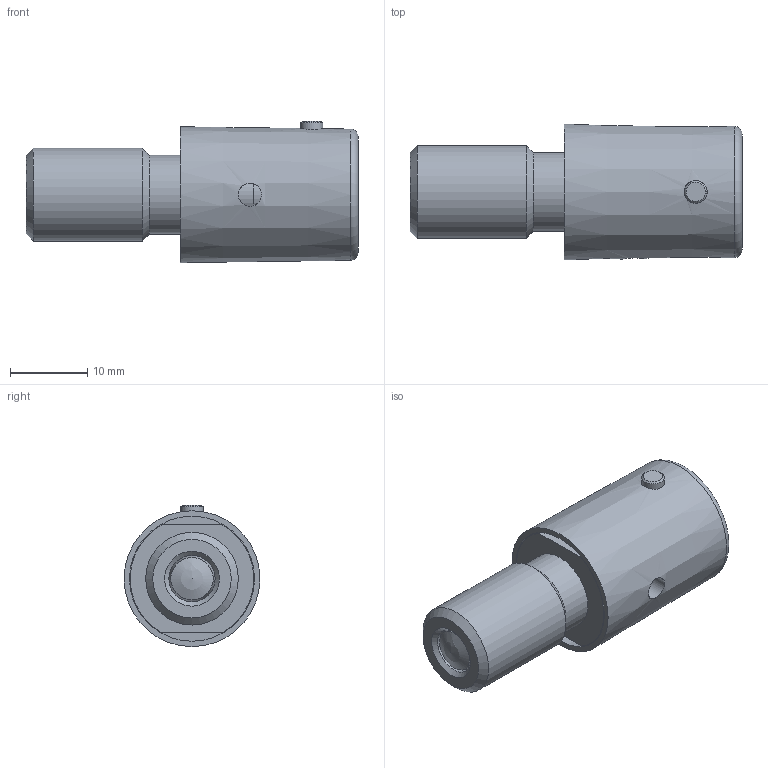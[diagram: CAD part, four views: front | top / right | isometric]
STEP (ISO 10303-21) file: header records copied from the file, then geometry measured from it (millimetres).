
FILE_DESCRIPTION( ( 'STEP AP203' ), '1' );
FILE_NAME( 'C:/Temp/Ganter_Step_05_03_2020/data/3_1/gn816/gn_816_b/Locking plunger GN 816-6-M12x1,5-B (activated).stp', '2020-03-12T08:55:55', ( 'License CC BY-ND 4.0' ), ( 'CADENAS' ), ' ', 'PARTsolutions', ' ' );
FILE_SCHEMA( ( 'CONFIG_CONTROL_DESIGN' ) );
Length unit declared in the file: millimetre
Products named in the file (3): Locking plunger GN 816-6-M12x1,5-B (activated); _GN 816-6-M12x1,5-B(1)-b2; _GN 816-6-M12x1,5-Bb1
Assembly tree (2 placements, depth 2):
  Locking plunger GN 816-6-M12x1,5-B (activated)
    _GN 816-6-M12x1,5-B(1)-b2
    _GN 816-6-M12x1,5-Bb1
Bounding box: 43 x 17.59 x 18.3 mm (x, y, z)
Volume: 6129.9 mm3; surface area: 4854.8 mm2
Topology: 2 solids, 2 shells, 38 faces, 73 edges, 46 vertices
Faces by surface type: cylinder 13, plane 13, cone 9, torus 2, sphere 1
Full cylindrical faces by diameter (mm): 2.9 x2, 3 x2, 5.9 x1, 6 x2, 10.2 x1, 11.1 x1, 12 x1, 16.2 x1
Entity records: 1226 total; most frequent: CARTESIAN_POINT 430, DIRECTION 154, ORIENTED_EDGE 92, EDGE_LOOP 74, AXIS2_PLACEMENT_3D 73, FACE_OUTER_BOUND 51, EDGE_CURVE 46, VERTEX_POINT 43
